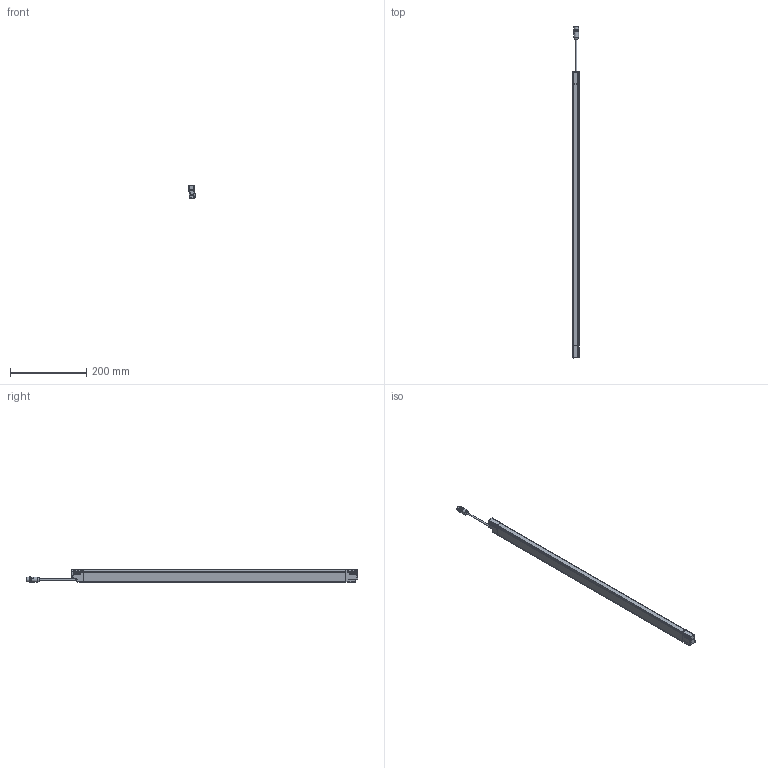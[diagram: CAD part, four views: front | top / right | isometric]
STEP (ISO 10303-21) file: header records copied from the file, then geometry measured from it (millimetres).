
FILE_DESCRIPTION(/* description */ (''),/* implementation_level */ '2;1');
FILE_NAME(/* name */ 'DSD-0640.stp',/* time_stamp */ '2015-02-23T17:36:09+01:00',/* author */ (''),/* organization */ (''),/* preprocessor_version */ 'ST-DEVELOPER v11',/* originating_system */ 'SIEMENS PLM Software NX 7.5',/* authorisation */ '');
FILE_SCHEMA (('AUTOMOTIVE_DESIGN { 1 0 10303 214 1 1 1 1 }'));
Length unit declared in the file: millimetre
Products named in the file (1): AP008122_00
Bounding box: 17.36 x 870.24 x 33.46 mm (x, y, z)
Surface area: 94862 mm2 (no closed solid volume)
Topology: 0 solids, 45 shells, 1079 faces, 3697 edges, 2528 vertices
Faces by surface type: cylinder 393, plane 320, bspline 147, torus 114, sphere 64, cone 41
Full cylindrical faces by diameter (mm): 1 x5, 1.2 x2, 2.6 x6, 4 x1, 8.3 x1, 9.4 x1, 10.4 x1, 12 x1, 13 x1, 13.5 x1, 14.5 x2
Entity records: 45793 total; most frequent: CARTESIAN_POINT 14642, DIRECTION 6662, ORIENTED_EDGE 5780, EDGE_CURVE 3585, AXIS2_PLACEMENT_3D 2509, VERTEX_POINT 2500, LINE 1644, VECTOR 1644
